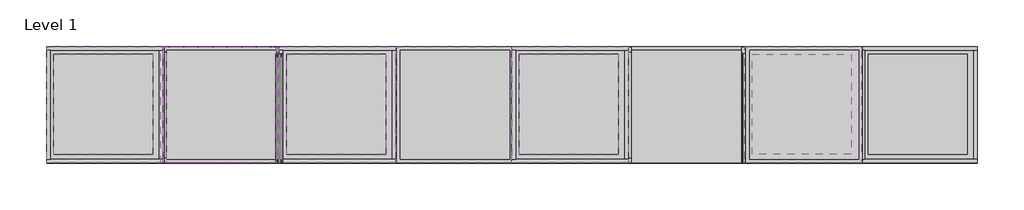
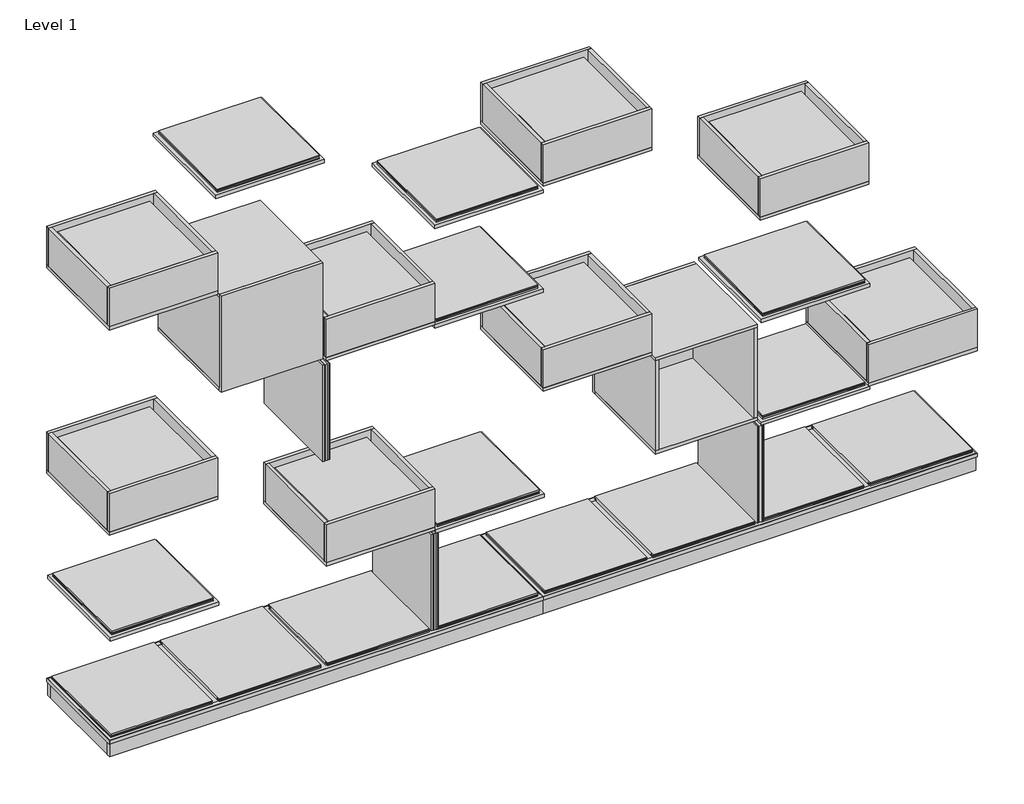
# One storey, incomplete: 24 furniture elements, 8 geographic elements.
"""IFC4 building model written with IfcOpenShell, lengths in millimetres."""

from ifc_helpers import new_model, si_unit, origin, place, context, project, spatial, transform, mapped, element, save
from components import furniture_shelving_storage_grid_cupboard_insert_side_left_8271136d, furniture_shelving_storage_grid_double_side_colour_black_ral_d8258e37, furniture_shelving_storage_grid_plinth_type_1x4_colour_black_6eff8f26, furniture_shelving_storage_grid_top_base_panel_size_and_cf4f366d, furniture_shelving_storage_grid_top_base_panel_size_and_bb9ed435, furniture_shelving_storage_grid_top_box_colour_oak_e10ae7cb, only_plant_only_plant_8fcf59e9

model = new_model("IFC4")

# Units and contexts
model_context = context("Model", 3, world=origin())
ifc_project = project(units=[si_unit("LENGTHUNIT", "METRE", prefix="MILLI")], contexts=[model_context])

# Site, building, storey
site = spatial("IfcSite", under=ifc_project)
building = spatial("IfcBuilding", under=site)
storey = spatial("IfcBuildingStorey", under=building, Name="Level 1", Elevation=0.0)

# Furniture
placement = place(None, origin())
furniture_shelving_storage_grid_cupboard_insert_side_left_shape = furniture_shelving_storage_grid_cupboard_insert_side_left_8271136d(model_context)
element("IfcFurniture", 1, ObjectType="Furniture_Shelving-Storage_Grid_Cupboard-insert : Side - (Left) Colour - (White RAL 9016) 2", at=placement, inside=storey, context=model_context, shape_type="MappedRepresentation", body=[
    mapped(furniture_shelving_storage_grid_cupboard_insert_side_left_shape, transform((2342.9216627, 185.4994643, 479.0094795), x_axis=(1.0, 0.0, 0.0), y_axis=(0.0, 1.0, 0.0), z_axis=(0.0, 0.0, 1.0))),
])
element("IfcFurniture", 2, ObjectType="Furniture_Shelving-Storage_Grid_Cupboard-insert : Side - (Left) Colour - (White RAL 9016) 2", at=placement, inside=storey, context=model_context, shape_type="MappedRepresentation", body=[
    mapped(furniture_shelving_storage_grid_cupboard_insert_side_left_shape, transform((738.9220252, 215.5005361, 1281.0094794), x_axis=(-1.0, 0.0, 0.0), y_axis=(0.0, -1.0, 0.0), z_axis=(0.0, 0.0, 1.0))),
])
furniture_shelving_storage_grid_double_side_colour_black_ral_shape = furniture_shelving_storage_grid_double_side_colour_black_ral_d8258e37(model_context)
element("IfcFurniture", 3, ObjectType="Furniture_Shelving-Storage_Grid_Double-Side : Colour - (Black RAL 9011)", at=placement, inside=storey, context=model_context, shape_type="MappedRepresentation", body=[
    mapped(furniture_shelving_storage_grid_double_side_colour_black_ral_shape, transform((1340.4224237, 187.9998998, 77.8092697), x_axis=(1.0, 0.0, 0.0), y_axis=(0.0, 1.0, 0.0), z_axis=(0.0, 0.0, 1.0))),
])
element("IfcFurniture", 4, ObjectType="Furniture_Shelving-Storage_Grid_Double-Side : Colour - (Black RAL 9011)", at=placement, inside=storey, context=model_context, shape_type="MappedRepresentation", body=[
    mapped(furniture_shelving_storage_grid_double_side_colour_black_ral_shape, transform((939.4224237, 187.9998998, 879.8092697), x_axis=(1.0, 0.0, 0.0), y_axis=(0.0, 1.0, 0.0), z_axis=(0.0, 0.0, 1.0))),
])
element("IfcFurniture", 5, ObjectType="Furniture_Shelving-Storage_Grid_Double-Side : Colour - (Black RAL 9011)", at=placement, inside=storey, context=model_context, shape_type="MappedRepresentation", body=[
    mapped(furniture_shelving_storage_grid_double_side_colour_black_ral_shape, transform((2543.4223979, 187.9998998, 77.8092697), x_axis=(1.0, 0.0, 0.0), y_axis=(0.0, 1.0, 0.0), z_axis=(0.0, 0.0, 1.0))),
])
furniture_shelving_storage_grid_plinth_type_1x4_colour_black_shape = furniture_shelving_storage_grid_plinth_type_1x4_colour_black_6eff8f26(model_context)
element("IfcFurniture", 6, ObjectType="Furniture_Shelving-Storage_Grid_Plinth : Type - (1x4) Colour - (Black RAL 9011)", at=placement, inside=storey, context=model_context, shape_type="MappedRepresentation", body=[
    mapped(furniture_shelving_storage_grid_plinth_type_1x4_colour_black_shape, transform((337.9218447, 199.7750002, 78.0092697), x_axis=(1.0, 0.0, 0.0), y_axis=(0.0, 1.0, 0.0), z_axis=(0.0, 0.0, 1.0))),
])
element("IfcFurniture", 7, ObjectType="Furniture_Shelving-Storage_Grid_Plinth : Type - (1x4) Colour - (Black RAL 9011)", at=placement, inside=storey, context=model_context, shape_type="MappedRepresentation", body=[
    mapped(furniture_shelving_storage_grid_plinth_type_1x4_colour_black_shape, transform((1938.8093189, 199.7750002, 78.0092697), x_axis=(1.0, 0.0, 0.0), y_axis=(0.0, 1.0, 0.0), z_axis=(0.0, 0.0, 1.0))),
])
furniture_shelving_storage_grid_top_base_panel_size_and_shape = furniture_shelving_storage_grid_top_base_panel_size_and_cf4f366d(model_context)
element("IfcFurniture", 8, ObjectType="Furniture_Shelving-Storage_Grid_Top-Base-Panel : Size and color - (1x1 Black RAL 9011)", at=placement, inside=storey, context=model_context, shape_type="MappedRepresentation", body=[
    mapped(furniture_shelving_storage_grid_top_base_panel_size_and_shape, transform((1540.9224032, 200.4995461, 1268.5092697), x_axis=(1.0, 0.0, 0.0), y_axis=(0.0, 1.0, 0.0), z_axis=(0.0, 0.0, 1.0))),
])
element("IfcFurniture", 9, ObjectType="Furniture_Shelving-Storage_Grid_Top-Base-Panel : Size and color - (1x1 Black RAL 9011)", at=placement, inside=storey, context=model_context, shape_type="MappedRepresentation", body=[
    mapped(furniture_shelving_storage_grid_top_base_panel_size_and_shape, transform((1540.9224032, 200.4995461, 1656.5092697), x_axis=(1.0, 0.0, 0.0), y_axis=(0.0, 1.0, 0.0), z_axis=(0.0, 0.0, 1.0))),
])
element("IfcFurniture", 10, ObjectType="Furniture_Shelving-Storage_Grid_Top-Base-Panel : Size and color - (1x1 Black RAL 9011)", at=placement, inside=storey, context=model_context, shape_type="MappedRepresentation", body=[
    mapped(furniture_shelving_storage_grid_top_base_panel_size_and_shape, transform((1544.8911276, 200.4995461, 466.0092697), x_axis=(1.0, 0.0, 0.0), y_axis=(0.0, 1.0, 0.0), z_axis=(0.0, 0.0, 1.0))),
])
element("IfcFurniture", 11, ObjectType="Furniture_Shelving-Storage_Grid_Top-Base-Panel : Size and color - (1x1 Black RAL 9011)", at=placement, inside=storey, context=model_context, shape_type="MappedRepresentation", body=[
    mapped(furniture_shelving_storage_grid_top_base_panel_size_and_shape, transform((341.8911276, 200.4995461, 466.0092697), x_axis=(1.0, 0.0, 0.0), y_axis=(0.0, 1.0, 0.0), z_axis=(0.0, 0.0, 1.0))),
])
element("IfcFurniture", 12, ObjectType="Furniture_Shelving-Storage_Grid_Top-Base-Panel : Size and color - (1x1 Black RAL 9011)", at=placement, inside=storey, context=model_context, shape_type="MappedRepresentation", body=[
    mapped(furniture_shelving_storage_grid_top_base_panel_size_and_shape, transform((2747.8911017, 200.4995461, 466.0092697), x_axis=(1.0, 0.0, 0.0), y_axis=(0.0, 1.0, 0.0), z_axis=(0.0, 0.0, 1.0))),
])
element("IfcFurniture", 13, ObjectType="Furniture_Shelving-Storage_Grid_Top-Base-Panel : Size and color - (1x1 Black RAL 9011)", at=placement, inside=storey, context=model_context, shape_type="MappedRepresentation", body=[
    mapped(furniture_shelving_storage_grid_top_base_panel_size_and_shape, transform((732.0245971, 200.4995461, 2057.3461075), x_axis=(1.0, 0.0, 0.0), y_axis=(0.0, 1.0, 0.0), z_axis=(0.0, 0.0, 1.0))),
])
element("IfcFurniture", 14, ObjectType="Furniture_Shelving-Storage_Grid_Top-Base-Panel : Size and color - (1x1 Black RAL 9011)", at=placement, inside=storey, context=model_context, shape_type="MappedRepresentation", body=[
    mapped(furniture_shelving_storage_grid_top_base_panel_size_and_shape, transform((2747.8911017, 200.4995461, 867.0092697), x_axis=(1.0, 0.0, 0.0), y_axis=(0.0, 1.0, 0.0), z_axis=(0.0, 0.0, 1.0))),
])
furniture_shelving_storage_grid_top_base_panel_size_and_2_shape = furniture_shelving_storage_grid_top_base_panel_size_and_bb9ed435(model_context)
element("IfcFurniture", 15, ObjectType="Furniture_Shelving-Storage_Grid_Top-Base-Panel : Size and color - (1x4 Black RAL 9011)", at=placement, inside=storey, context=model_context, shape_type="MappedRepresentation", body=[
    mapped(furniture_shelving_storage_grid_top_base_panel_size_and_2_shape, transform((1540.9216216, 200.5004543, 65.0092697), x_axis=(-1.0, 0.0, 0.0), y_axis=(0.0, -1.0, 0.0), z_axis=(0.0, 0.0, 1.0))),
])
element("IfcFurniture", 16, ObjectType="Furniture_Shelving-Storage_Grid_Top-Base-Panel : Size and color - (1x4 Black RAL 9011)", at=placement, inside=storey, context=model_context, shape_type="MappedRepresentation", body=[
    mapped(furniture_shelving_storage_grid_top_base_panel_size_and_2_shape, transform((3144.9215958, 200.5004543, 65.0092697), x_axis=(-1.0, 0.0, 0.0), y_axis=(0.0, -1.0, 0.0), z_axis=(0.0, 0.0, 1.0))),
])
furniture_shelving_storage_grid_top_box_colour_oak_shape = furniture_shelving_storage_grid_top_box_colour_oak_e10ae7cb(model_context)
element("IfcFurniture", 17, ObjectType="Furniture_Shelving-Storage_Grid_Top-Box : Colour - (Oak)", at=placement, inside=storey, context=model_context, shape_type="MappedRepresentation", body=[
    mapped(furniture_shelving_storage_grid_top_box_colour_oak_shape, transform((337.9168197, 200.5000002, 479.0092698), x_axis=(1.0, 0.0, 0.0), y_axis=(0.0, 1.0, 0.0), z_axis=(0.0, 0.0, 1.0))),
])
element("IfcFurniture", 18, ObjectType="Furniture_Shelving-Storage_Grid_Top-Box : Colour - (Oak)", at=placement, inside=storey, context=model_context, shape_type="MappedRepresentation", body=[
    mapped(furniture_shelving_storage_grid_top_box_colour_oak_shape, transform((1941.916768, 200.5000002, 1281.0092698), x_axis=(1.0, 0.0, 0.0), y_axis=(0.0, 1.0, 0.0), z_axis=(0.0, 0.0, 1.0))),
])
element("IfcFurniture", 19, ObjectType="Furniture_Shelving-Storage_Grid_Top-Box : Colour - (Oak)", at=placement, inside=storey, context=model_context, shape_type="MappedRepresentation", body=[
    mapped(furniture_shelving_storage_grid_top_box_colour_oak_shape, transform((1140.1167938, 200.5000002, 880.5092698), x_axis=(1.0, 0.0, 0.0), y_axis=(0.0, 1.0, 0.0), z_axis=(0.0, 0.0, 1.0))),
])
element("IfcFurniture", 20, ObjectType="Furniture_Shelving-Storage_Grid_Top-Box : Colour - (Oak)", at=placement, inside=storey, context=model_context, shape_type="MappedRepresentation", body=[
    mapped(furniture_shelving_storage_grid_top_box_colour_oak_shape, transform((1139.9168197, 200.5000002, 78.0092698), x_axis=(1.0, 0.0, 0.0), y_axis=(0.0, 1.0, 0.0), z_axis=(0.0, 0.0, 1.0))),
])
element("IfcFurniture", 21, ObjectType="Furniture_Shelving-Storage_Grid_Top-Box : Colour - (Oak)", at=placement, inside=storey, context=model_context, shape_type="MappedRepresentation", body=[
    mapped(furniture_shelving_storage_grid_top_box_colour_oak_shape, transform((3144.9168453, 200.5000002, 78.0092698), x_axis=(1.0, 0.0, 0.0), y_axis=(0.0, 1.0, 0.0), z_axis=(0.0, 0.0, 1.0))),
])
element("IfcFurniture", 22, ObjectType="Furniture_Shelving-Storage_Grid_Top-Box : Colour - (Oak)", at=placement, inside=storey, context=model_context, shape_type="MappedRepresentation", body=[
    mapped(furniture_shelving_storage_grid_top_box_colour_oak_shape, transform((1941.9167938, 200.5000002, 480.4592698), x_axis=(1.0, 0.0, 0.0), y_axis=(0.0, 1.0, 0.0), z_axis=(0.0, 0.0, 1.0))),
])
element("IfcFurniture", 23, ObjectType="Furniture_Shelving-Storage_Grid_Top-Box : Colour - (Oak)", at=placement, inside=storey, context=model_context, shape_type="MappedRepresentation", body=[
    mapped(furniture_shelving_storage_grid_top_box_colour_oak_shape, transform((2743.9167938, 200.5000002, 867.5092698), x_axis=(1.0, 0.0, 0.0), y_axis=(0.0, 1.0, 0.0), z_axis=(0.0, 0.0, 1.0))),
])
element("IfcFurniture", 24, ObjectType="Furniture_Shelving-Storage_Grid_Top-Box : Colour - (Oak)", at=placement, inside=storey, context=model_context, shape_type="MappedRepresentation", body=[
    mapped(furniture_shelving_storage_grid_top_box_colour_oak_shape, transform((337.9167938, 200.5000002, 1281.0092698), x_axis=(1.0, 0.0, 0.0), y_axis=(0.0, 1.0, 0.0), z_axis=(0.0, 0.0, 1.0))),
])

# Geographic elements
only_plant_only_plant_shape = only_plant_only_plant_8fcf59e9(model_context)
element("IfcGeographicElement", 25, ObjectType="Only Plant : Only Plant", at=placement, inside=storey, context=model_context, shape_type="MappedRepresentation", body=[
    mapped(only_plant_only_plant_shape, transform((327.822051, 196.6000002, 880.2092698), x_axis=(1.0, 0.0, 0.0), y_axis=(0.0, 1.0, 0.0), z_axis=(0.0, 0.0, 1.0))),
])
element("IfcGeographicElement", 26, ObjectType="Only Plant : Only Plant", at=placement, inside=storey, context=model_context, shape_type="MappedRepresentation", body=[
    mapped(only_plant_only_plant_shape, transform((1931.8219994, 196.6000002, 1682.2092697), x_axis=(1.0, 0.0, 0.0), y_axis=(0.0, 1.0, 0.0), z_axis=(0.0, 0.0, 1.0))),
])
element("IfcGeographicElement", 27, ObjectType="Only Plant : Only Plant", at=placement, inside=storey, context=model_context, shape_type="MappedRepresentation", body=[
    mapped(only_plant_only_plant_shape, transform((1130.0220252, 196.6000002, 1281.7092697), x_axis=(1.0, 0.0, 0.0), y_axis=(0.0, 1.0, 0.0), z_axis=(0.0, 0.0, 1.0))),
])
element("IfcGeographicElement", 28, ObjectType="Only Plant : Only Plant", at=placement, inside=storey, context=model_context, shape_type="MappedRepresentation", body=[
    mapped(only_plant_only_plant_shape, transform((1129.822051, 196.6000002, 479.2092698), x_axis=(1.0, 0.0, 0.0), y_axis=(0.0, 1.0, 0.0), z_axis=(0.0, 0.0, 1.0))),
])
element("IfcGeographicElement", 29, ObjectType="Only Plant : Only Plant", at=placement, inside=storey, context=model_context, shape_type="MappedRepresentation", body=[
    mapped(only_plant_only_plant_shape, transform((3134.8220766, 196.6000002, 479.2092698), x_axis=(1.0, 0.0, 0.0), y_axis=(0.0, 1.0, 0.0), z_axis=(0.0, 0.0, 1.0))),
])
element("IfcGeographicElement", 30, ObjectType="Only Plant : Only Plant", at=placement, inside=storey, context=model_context, shape_type="MappedRepresentation", body=[
    mapped(only_plant_only_plant_shape, transform((1931.8220252, 196.6000002, 881.6592697), x_axis=(1.0, 0.0, 0.0), y_axis=(0.0, 1.0, 0.0), z_axis=(0.0, 0.0, 1.0))),
])
element("IfcGeographicElement", 31, ObjectType="Only Plant : Only Plant", at=placement, inside=storey, context=model_context, shape_type="MappedRepresentation", body=[
    mapped(only_plant_only_plant_shape, transform((2733.8220252, 196.6000002, 1268.7092697), x_axis=(1.0, 0.0, 0.0), y_axis=(0.0, 1.0, 0.0), z_axis=(0.0, 0.0, 1.0))),
])
element("IfcGeographicElement", 32, ObjectType="Only Plant : Only Plant", at=placement, inside=storey, context=model_context, shape_type="MappedRepresentation", body=[
    mapped(only_plant_only_plant_shape, transform((327.8220252, 196.6000002, 1682.2092697), x_axis=(1.0, 0.0, 0.0), y_axis=(0.0, 1.0, 0.0), z_axis=(0.0, 0.0, 1.0))),
])

save(model, "model.ifc")
